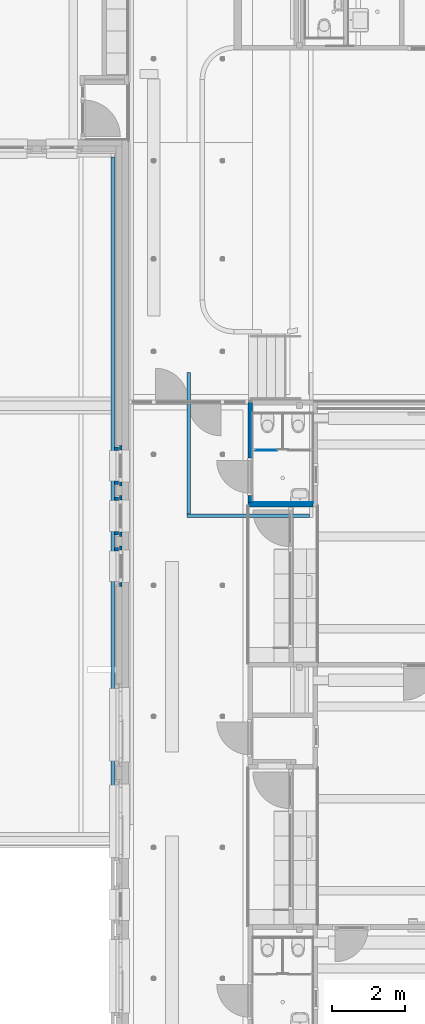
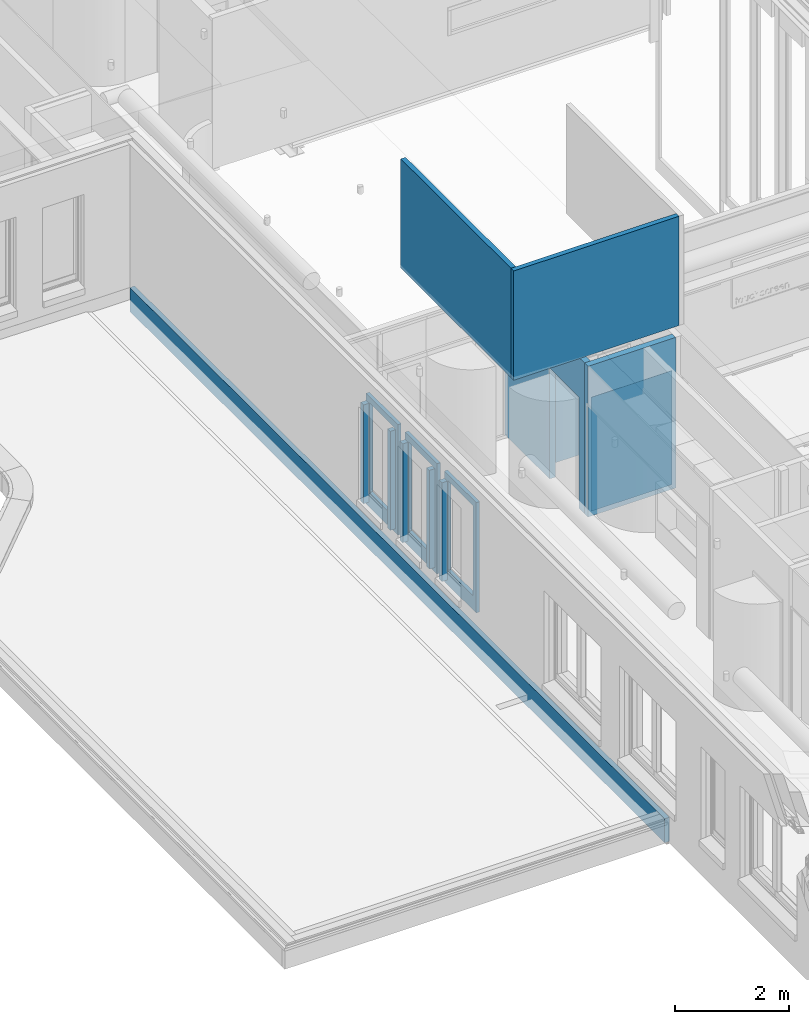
# One storey, part 41 of 128: 15 walls, 4 openings.
"""IFC2X3 building model written with IfcOpenShell, lengths in millimetres."""

from ifc_helpers import new_model, entity, si_unit, converted_unit, derived_unit, direction, frame, frame_2d, origin, place, context, subcontext, project, spatial, rectangle, extrude, material, layer, layer_set, layer_usage, type_object, element, save


model = new_model("IFC2X3")

# Units and contexts
model_context = context("Model", 3, precision=0.01, world=origin(), true_north=direction((6.123031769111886e-17, 1.0)))
body_context = subcontext(model_context, "Body", "Model", "MODEL_VIEW")
ifc_project = project(units=[si_unit("LENGTHUNIT", "METRE", prefix="MILLI"), si_unit("AREAUNIT", "SQUARE_METRE"), si_unit("VOLUMEUNIT", "CUBIC_METRE"), converted_unit("PLANEANGLEUNIT", "DEGREE", entity("IfcRatioMeasure", 0.017453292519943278), si_unit("PLANEANGLEUNIT", "RADIAN"), dimensions=[0, 0, 0, 0, 0, 0, 0]), si_unit("MASSUNIT", "GRAM", prefix="KILO"), derived_unit("MASSDENSITYUNIT", [(si_unit("MASSUNIT", "GRAM", prefix="KILO"), 1), (si_unit("LENGTHUNIT", "METRE"), -3)]), derived_unit("IONCONCENTRATIONUNIT", [(si_unit("MASSUNIT", "GRAM", prefix="KILO"), 1), (si_unit("LENGTHUNIT", "METRE"), -3)]), derived_unit("MOMENTOFINERTIAUNIT", [(si_unit("LENGTHUNIT", "METRE"), 4)]), si_unit("TIMEUNIT", "SECOND"), si_unit("FREQUENCYUNIT", "HERTZ"), si_unit("THERMODYNAMICTEMPERATUREUNIT", "DEGREE_CELSIUS"), derived_unit("THERMALTRANSMITTANCEUNIT", [(si_unit("MASSUNIT", "GRAM", prefix="KILO"), 1), (si_unit("THERMODYNAMICTEMPERATUREUNIT", "KELVIN"), -1), (si_unit("TIMEUNIT", "SECOND"), -3)]), derived_unit("THERMALCONDUCTANCEUNIT", [(si_unit("MASSUNIT", "GRAM", prefix="KILO"), 1), (si_unit("THERMODYNAMICTEMPERATUREUNIT", "KELVIN"), -1), (si_unit("TIMEUNIT", "SECOND"), -3), (si_unit("LENGTHUNIT", "METRE"), 1)]), derived_unit("VOLUMETRICFLOWRATEUNIT", [(si_unit("LENGTHUNIT", "METRE"), 3), (si_unit("TIMEUNIT", "SECOND"), -1)]), derived_unit("MASSFLOWRATEUNIT", [(si_unit("MASSUNIT", "GRAM", prefix="KILO"), 1), (si_unit("TIMEUNIT", "SECOND"), -1)]), derived_unit("ROTATIONALFREQUENCYUNIT", [(si_unit("TIMEUNIT", "SECOND"), -1)]), si_unit("ELECTRICCURRENTUNIT", "AMPERE"), si_unit("ELECTRICVOLTAGEUNIT", "VOLT"), si_unit("POWERUNIT", "WATT"), si_unit("FORCEUNIT", "NEWTON", prefix="KILO"), si_unit("ILLUMINANCEUNIT", "LUX"), si_unit("LUMINOUSFLUXUNIT", "LUMEN"), si_unit("LUMINOUSINTENSITYUNIT", "CANDELA"), derived_unit("USERDEFINED", [(si_unit("MASSUNIT", "GRAM", prefix="KILO"), -1), (si_unit("LENGTHUNIT", "METRE"), -2), (si_unit("TIMEUNIT", "SECOND"), 3), (si_unit("LUMINOUSFLUXUNIT", "LUMEN"), 1)]), derived_unit("USERDEFINED", [(si_unit("MASSUNIT", "GRAM", prefix="KILO"), 1), (si_unit("TIMEUNIT", "SECOND"), -3), (si_unit("LENGTHUNIT", "METRE"), 3), (si_unit("ELECTRICCURRENTUNIT", "AMPERE"), -2)]), derived_unit("SOUNDPOWERUNIT", [(si_unit("MASSUNIT", "GRAM", prefix="KILO"), 1), (si_unit("TIMEUNIT", "SECOND"), -3), (si_unit("LENGTHUNIT", "METRE"), 2)]), derived_unit("SOUNDPRESSUREUNIT", [(si_unit("MASSUNIT", "GRAM", prefix="KILO"), 1), (si_unit("LENGTHUNIT", "METRE"), -1), (si_unit("TIMEUNIT", "SECOND"), -2)]), derived_unit("LINEARVELOCITYUNIT", [(si_unit("LENGTHUNIT", "METRE"), 1), (si_unit("TIMEUNIT", "SECOND"), -1)]), si_unit("PRESSUREUNIT", "PASCAL"), derived_unit("USERDEFINED", [(si_unit("MASSUNIT", "GRAM", prefix="KILO"), 1), (si_unit("LENGTHUNIT", "METRE"), -2), (si_unit("TIMEUNIT", "SECOND"), -2)]), derived_unit("LINEARFORCEUNIT", [(si_unit("MASSUNIT", "GRAM", prefix="KILO"), 1), (si_unit("TIMEUNIT", "SECOND"), -2)]), derived_unit("PLANARFORCEUNIT", [(si_unit("MASSUNIT", "GRAM", prefix="KILO"), 1), (si_unit("LENGTHUNIT", "METRE"), -1), (si_unit("TIMEUNIT", "SECOND"), -2)]), derived_unit("SPECIFICHEATCAPACITYUNIT", [(si_unit("THERMODYNAMICTEMPERATUREUNIT", "KELVIN"), -1), (si_unit("LENGTHUNIT", "METRE"), 2), (si_unit("TIMEUNIT", "SECOND"), -2)]), derived_unit("HEATINGVALUEUNIT", [(si_unit("LENGTHUNIT", "METRE"), 2), (si_unit("TIMEUNIT", "SECOND"), -2)]), derived_unit("VAPORPERMEABILITYUNIT", [(si_unit("LENGTHUNIT", "METRE"), -1), (si_unit("TIMEUNIT", "SECOND"), 1)]), derived_unit("DYNAMICVISCOSITYUNIT", [(si_unit("MASSUNIT", "GRAM", prefix="KILO"), 1), (si_unit("TIMEUNIT", "SECOND"), -1), (si_unit("LENGTHUNIT", "METRE"), -1)]), derived_unit("THERMALEXPANSIONCOEFFICIENTUNIT", [(si_unit("THERMODYNAMICTEMPERATUREUNIT", "KELVIN"), -1)]), derived_unit("MODULUSOFELASTICITYUNIT", [(si_unit("MASSUNIT", "GRAM", prefix="KILO"), 1), (si_unit("LENGTHUNIT", "METRE"), -1), (si_unit("TIMEUNIT", "SECOND"), -2)]), derived_unit("ISOTHERMALMOISTURECAPACITYUNIT", [(si_unit("LENGTHUNIT", "METRE"), 3), (si_unit("MASSUNIT", "GRAM", prefix="KILO"), -1)]), derived_unit("MOISTUREDIFFUSIVITYUNIT", [(si_unit("TIMEUNIT", "SECOND"), -1), (si_unit("LENGTHUNIT", "METRE"), 2)])], contexts=[model_context])

# Site, building, storey
site_placement = place(None, frame((0.0, 300.0, 0.0)))
site = spatial("IfcSite", under=ifc_project, at=site_placement, Name="<Kadastrale nummers>", CompositionType="ELEMENT")
building_placement = place(site_placement, origin())
building = spatial("IfcBuilding", under=site, at=building_placement, CompositionType="ELEMENT")
storey_placement = place(building_placement, frame((0.0, 0.0, 3560.0000331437)))
storey = spatial("IfcBuildingStorey", under=building, at=storey_placement, Name="01 eerste verdieping", CompositionType="ELEMENT", Elevation=3560.0000331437)

# Walls
ifc_material_1 = material(Name="ISR_Metselwerk")
ifc_layer_1 = layer(ifc_material_1, 100.0)
ifc_layer_set_1 = layer_set([ifc_layer_1], Name="Basic Wall:21_DAT_metselwerk_100")
ifc_layer_usage_1 = layer_usage(ifc_layer_set_1, "AXIS2", "NEGATIVE", 50.0)
wall_type_1 = type_object("IfcWallType", Name="Basic Wall:21_DAT_metselwerk_100", PredefinedType="STANDARD", material=ifc_layer_set_1)
wall_1_placement = place(storey_placement, frame((41675.0, 27875.0, 3790.0), z_axis=(0.0, 0.0, 1.0), x_axis=(-1.0, 0.0, 0.0)))
element("IfcWallStandardCase", 1, at=wall_1_placement, inside=storey, type_object=wall_type_1, material=ifc_layer_usage_1, Name="Basic Wall:21_DAT_metselwerk_100", ObjectType="Basic Wall:21_DAT_metselwerk_100", context=body_context, shape_type="SweptSolid", body=[
    extrude(rectangle(XDim=3360.000000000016, YDim=100.00000000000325, at=frame_2d((1680.000000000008, 8.171241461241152e-14), x_axis=(-1.0, 0.0))), origin(), (0.0, 0.0, 1.0), 2349.999964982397),
])
ifc_layer_usage_2 = layer_usage(ifc_layer_set_1, "AXIS2", "POSITIVE", -50.0)
wall_2_placement = place(storey_placement, frame((38365.0, 27925.0, 3790.0), z_axis=(0.0, 0.0, 1.0), x_axis=(0.0, 1.0, 0.0)))
element("IfcWallStandardCase", 2, at=wall_2_placement, inside=storey, type_object=wall_type_1, material=ifc_layer_usage_2, Name="Basic Wall:21_DAT_metselwerk_100", ObjectType="Basic Wall:21_DAT_metselwerk_100", context=body_context, shape_type="SweptSolid", body=[
    extrude(rectangle(XDim=3880.0000000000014, YDim=100.00000000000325, at=frame_2d((1940.0000000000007, -1.1581846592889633e-12), x_axis=(-1.0, 0.0))), origin(), (0.0, 0.0, 1.0), 2349.999964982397),
])
wall_3_placement = place(storey_placement, frame((36325.0, 26955.0, 715.0000018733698)))
element("IfcWallStandardCase", 3, at=wall_3_placement, inside=storey, type_object=wall_type_1, material=ifc_layer_usage_2, Name="Basic Wall:21_DAT_metselwerk_100", ObjectType="Basic Wall:21_DAT_metselwerk_100", context=body_context, shape_type="SweptSolid", body=[
    extrude(rectangle(XDim=110.00000000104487, YDim=100.00000000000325, at=frame_2d((55.000000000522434, -1.4139800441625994e-12), x_axis=(-1.0, 0.0))), origin(), (0.0, 0.0, 1.0), 2125.0000000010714),
])
wall_4_placement = place(storey_placement, frame((36325.0, 27395.0, 715.0000018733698)))
element("IfcWallStandardCase", 4, at=wall_4_placement, inside=storey, type_object=wall_type_1, material=ifc_layer_usage_1, Name="Basic Wall:21_DAT_metselwerk_100", ObjectType="Basic Wall:21_DAT_metselwerk_100", context=body_context, shape_type="SweptSolid", body=[
    extrude(rectangle(XDim=110.00000000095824, YDim=100.00000000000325, at=frame_2d((55.00000000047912, -1.4139800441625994e-12), x_axis=(-1.0, 0.0))), origin(), (0.0, 0.0, 1.0), 2125.0000000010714),
])
wall_5_placement = place(storey_placement, frame((36325.0, 28335.0, 715.0000018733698)))
element("IfcWallStandardCase", 5, at=wall_5_placement, inside=storey, type_object=wall_type_1, material=ifc_layer_usage_2, Name="Basic Wall:21_DAT_metselwerk_100", ObjectType="Basic Wall:21_DAT_metselwerk_100", context=body_context, shape_type="SweptSolid", body=[
    extrude(rectangle(XDim=110.00000000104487, YDim=100.00000000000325, at=frame_2d((55.000000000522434, -1.4139800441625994e-12), x_axis=(-1.0, 0.0))), origin(), (0.0, 0.0, 1.0), 2125.0000000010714),
])
wall_6_placement = place(storey_placement, frame((36325.0, 28775.0, 715.0000018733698)))
element("IfcWallStandardCase", 6, at=wall_6_placement, inside=storey, type_object=wall_type_1, material=ifc_layer_usage_1, Name="Basic Wall:21_DAT_metselwerk_100", ObjectType="Basic Wall:21_DAT_metselwerk_100", context=body_context, shape_type="SweptSolid", body=[
    extrude(rectangle(XDim=110.0000000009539, YDim=100.00000000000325, at=frame_2d((55.00000000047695, -1.4139800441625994e-12), x_axis=(-1.0, 0.0))), origin(), (0.0, 0.0, 1.0), 2125.0000000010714),
])
wall_7_placement = place(storey_placement, frame((36325.0, 29715.0, 715.0000018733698)))
element("IfcWallStandardCase", 7, at=wall_7_placement, inside=storey, type_object=wall_type_1, material=ifc_layer_usage_2, Name="Basic Wall:21_DAT_metselwerk_100", ObjectType="Basic Wall:21_DAT_metselwerk_100", context=body_context, shape_type="SweptSolid", body=[
    extrude(rectangle(XDim=110.00000000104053, YDim=100.00000000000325, at=frame_2d((55.00000000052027, -1.4139800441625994e-12), x_axis=(-1.0, 0.0))), origin(), (0.0, 0.0, 1.0), 2125.0000000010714),
])

# Wall, opening
ifc_material_2 = material(Name="ISR_Gips")
ifc_layer_2 = layer(ifc_material_2, 1.0)
ifc_material_3 = material(Name="ISR_Binnenwand")
ifc_layer_3 = layer(ifc_material_3, 123.0)
ifc_layer_4 = layer(ifc_material_2, 1.0)
ifc_layer_set_2 = layer_set([ifc_layer_2, ifc_layer_3, ifc_layer_4], Name="Basic Wall:22_DAT_binnenwand_125")
ifc_layer_usage_3 = layer_usage(ifc_layer_set_2, "AXIS2", "NEGATIVE", 62.50000000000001)
wall_type_2 = type_object("IfcWallType", Name="Basic Wall:22_DAT_binnenwand_125", PredefinedType="STANDARD", material=ifc_layer_set_2)
wall_8_placement = place(storey_placement, frame((40052.49999999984, 31035.0, 90.00000187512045), z_axis=(0.0, 0.0, 1.0), x_axis=(0.0, -1.0, 0.0)))
wall_8 = element("IfcWallStandardCase", 8, at=wall_8_placement, inside=storey, type_object=wall_type_2, material=ifc_layer_usage_3, Name="Basic Wall:22_DAT_binnenwand_125", ObjectType="Basic Wall:22_DAT_binnenwand_125", context=body_context, shape_type="SweptSolid", body=[
    extrude(rectangle(XDim=2800.001376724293, YDim=125.00000000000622, at=frame_2d((1400.0006883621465, 2.6503244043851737e-12), x_axis=(-1.0, 0.0))), origin(), (0.0, 0.0, 1.0), 3240.0000290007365),
])
opening_1_placement = place(wall_8_placement, origin())
element("IfcOpeningElement", 9, at=opening_1_placement, cuts=wall_8, Name="Basic Wall:22_DAT_binnenwand_125", ObjectType="Opening", context=body_context, shape_type="SweptSolid", body=[
    extrude(rectangle(XDim=2390.0000000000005, YDim=1034.0000000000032, at=frame_2d((-2.1600499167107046e-12, 0.0), x_axis=(0.0, 1.0))), frame((2089.002753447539, -214.89999999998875, 1195.0), z_axis=(0.0, 1.0, 0.0), x_axis=(-1.0, 0.0, 0.0)), (0.0, 0.0, 1.0), 429.79999999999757),
])

# Walls
ifc_layer_5 = layer(ifc_material_3, 113.0)
ifc_material_4 = material(Name="ISR_HPL Kleur hout")
ifc_layer_6 = layer(ifc_material_4, 12.0)
ifc_layer_set_3 = layer_set([ifc_layer_5, ifc_layer_6], Name="Basic Wall:22_DAT_binnenwand_125 HPL")
ifc_layer_usage_4 = layer_usage(ifc_layer_set_3, "AXIS2", "POSITIVE", -62.49999999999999)
wall_type_3 = type_object("IfcWallType", Name="Basic Wall:22_DAT_binnenwand_125 HPL", PredefinedType="STANDARD", material=ifc_layer_set_3)
wall_9_placement = place(storey_placement, frame((41775.0, 28172.498623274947, 90.00000187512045), z_axis=(0.0, 0.0, 1.0), x_axis=(-1.0, 0.0, 0.0)))
element("IfcWallStandardCase", 10, at=wall_9_placement, inside=storey, type_object=wall_type_3, material=ifc_layer_usage_4, Name="Basic Wall:22_DAT_binnenwand_125 HPL", ObjectType="Basic Wall:22_DAT_binnenwand_125 HPL", context=body_context, shape_type="SweptSolid", body=[
    extrude(rectangle(XDim=1784.9999999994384, YDim=124.99999999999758, at=frame_2d((892.4999999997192, 6.323830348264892e-13), x_axis=(-1.0, 0.0))), origin(), (0.0, 0.0, 1.0), 3240.0000290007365),
])
ifc_material_5 = material(Name="ISR_Kunststof_grijs")
ifc_layer_7 = layer(ifc_material_5, 25.0)
ifc_layer_set_4 = layer_set([ifc_layer_7], Name="Basic Wall:43_DAT_sanitairewand")
ifc_layer_usage_5 = layer_usage(ifc_layer_set_4, "AXIS2", "NEGATIVE", 12.500000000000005)
wall_type_4 = type_object("IfcWallType", Name="Basic Wall:43_DAT_sanitairewand", PredefinedType="STANDARD", material=ifc_layer_set_4)
wall_10_placement = place(storey_placement, frame((40195.0, 29667.49862327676, 240.00000187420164)))
element("IfcWallStandardCase", 11, at=wall_10_placement, inside=storey, type_object=wall_type_4, material=ifc_layer_usage_5, Name="Basic Wall:43_DAT_sanitairewand", ObjectType="Basic Wall:43_DAT_sanitairewand", context=body_context, shape_type="SweptSolid", body=[
    extrude(rectangle(XDim=600.0000000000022, YDim=25.000000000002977, at=frame_2d((300.0000000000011, 4.121147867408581e-13), x_axis=(-1.0, 0.0))), origin(), (0.0, 0.0, 1.0), 2000.0000000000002),
])
ifc_material_6 = material(Name="DAT_Gasbeton")
ifc_layer_8 = layer(ifc_material_6, 100.0)
ifc_layer_set_5 = layer_set([ifc_layer_8], Name="Basic Wall:21_DAT_gasbeton_100")
ifc_layer_usage_6 = layer_usage(ifc_layer_set_5, "AXIS2", "NEGATIVE", 50.0)
wall_type_5 = type_object("IfcWallType", Name="Basic Wall:21_DAT_gasbeton_100", PredefinedType="STANDARD", material=ifc_layer_set_5)
wall_11_placement = place(storey_placement, frame((36275.0, 37725.0, 0.0), z_axis=(0.0, 0.0, 1.0), x_axis=(0.0, -1.0, 0.0)))
element("IfcWallStandardCase", 12, at=wall_11_placement, inside=storey, type_object=wall_type_5, material=ifc_layer_usage_6, Name="Basic Wall:21_DAT_gasbeton_100", ObjectType="Basic Wall:21_DAT_gasbeton_100", context=body_context, shape_type="SweptSolid", body=[
    extrude(rectangle(XDim=18840.000000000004, YDim=100.00000000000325, at=frame_2d((9420.000000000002, 0.0), x_axis=(-1.0, 0.0))), origin(), (0.0, 0.0, 1.0), 514.9999668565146),
])

# Wall, opening
ifc_material_7 = material(Name="ISR_Isolatie")
ifc_layer_9 = layer(ifc_material_7, 70.0)
ifc_layer_set_6 = layer_set([ifc_layer_9], Name="Basic Wall:21_DAT_isolatie hard_74")
ifc_layer_usage_7 = layer_usage(ifc_layer_set_6, "AXIS2", "POSITIVE", -35.0)
wall_type_6 = type_object("IfcWallType", Name="Basic Wall:21_DAT_isolatie hard_74", PredefinedType="STANDARD", material=ifc_layer_set_6)
wall_12_placement = place(storey_placement, frame((36490.0, 27045.0, 589.9999668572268), z_axis=(0.0, 0.0, 1.0), x_axis=(0.0, -1.0, 0.0)))
wall_12 = element("IfcWallStandardCase", 13, at=wall_12_placement, inside=storey, type_object=wall_type_6, material=ifc_layer_usage_7, Name="Basic Wall:21_DAT_isolatie hard_74", ObjectType="Basic Wall:21_DAT_isolatie hard_74", context=body_context, shape_type="SweptSolid", body=[
    extrude(rectangle(XDim=1119.9999999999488, YDim=70.00000000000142, at=frame_2d((559.9999999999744, -1.2789769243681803e-13), x_axis=(-1.0, 0.0))), origin(), (0.0, 0.0, 1.0), 2375.000035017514),
])
opening_2_placement = place(wall_12_placement, origin())
element("IfcOpeningElement", 14, at=opening_2_placement, cuts=wall_12, Name="Basic Wall:21_DAT_isolatie hard_74", ObjectType="Opening", context=body_context, shape_type="SweptSolid", body=[
    extrude(rectangle(XDim=1929.9999999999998, YDim=879.9999999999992, at=frame_2d((5.684341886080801e-13, 0.0), x_axis=(1.0, 0.0))), frame((560.0, -187.40000000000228, 1275.0000350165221), z_axis=(0.0, 1.0, 0.0), x_axis=(0.0, 0.0, 1.0)), (0.0, 0.0, 1.0), 374.80000000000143),
])

wall_13_placement = place(storey_placement, frame((36490.0, 28425.0, 589.9999668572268), z_axis=(0.0, 0.0, 1.0), x_axis=(0.0, -1.0, 0.0)))
wall_13 = element("IfcWallStandardCase", 15, at=wall_13_placement, inside=storey, type_object=wall_type_6, material=ifc_layer_usage_7, Name="Basic Wall:21_DAT_isolatie hard_74", ObjectType="Basic Wall:21_DAT_isolatie hard_74", context=body_context, shape_type="SweptSolid", body=[
    extrude(rectangle(XDim=1119.9999999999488, YDim=70.00000000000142, at=frame_2d((559.9999999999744, -1.2789769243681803e-13), x_axis=(-1.0, 0.0))), origin(), (0.0, 0.0, 1.0), 2375.000035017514),
])
opening_3_placement = place(wall_13_placement, origin())
element("IfcOpeningElement", 16, at=opening_3_placement, cuts=wall_13, Name="Basic Wall:21_DAT_isolatie hard_74", ObjectType="Opening", context=body_context, shape_type="SweptSolid", body=[
    extrude(rectangle(XDim=1929.9999999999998, YDim=879.9999999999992, at=frame_2d((5.684341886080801e-13, -4.320099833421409e-12), x_axis=(1.0, 0.0))), frame((560.0, -187.40000000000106, 1275.0000350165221), z_axis=(0.0, 1.0, 0.0), x_axis=(0.0, 0.0, 1.0)), (0.0, 0.0, 1.0), 374.80000000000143),
])

wall_14_placement = place(storey_placement, frame((36490.0, 29805.0, 589.9999668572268), z_axis=(0.0, 0.0, 1.0), x_axis=(0.0, -1.0, 0.0)))
wall_14 = element("IfcWallStandardCase", 17, at=wall_14_placement, inside=storey, type_object=wall_type_6, material=ifc_layer_usage_7, Name="Basic Wall:21_DAT_isolatie hard_74", ObjectType="Basic Wall:21_DAT_isolatie hard_74", context=body_context, shape_type="SweptSolid", body=[
    extrude(rectangle(XDim=1119.9999999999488, YDim=70.00000000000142, at=frame_2d((559.9999999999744, -1.2789769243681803e-13), x_axis=(-1.0, 0.0))), origin(), (0.0, 0.0, 1.0), 2375.000035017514),
])
opening_4_placement = place(wall_14_placement, origin())
element("IfcOpeningElement", 18, at=opening_4_placement, cuts=wall_14, Name="Basic Wall:21_DAT_isolatie hard_74", ObjectType="Opening", context=body_context, shape_type="SweptSolid", body=[
    extrude(rectangle(XDim=1929.9999999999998, YDim=879.9999999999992, at=frame_2d((5.684341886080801e-13, 0.0), x_axis=(1.0, 0.0))), frame((560.0, -187.3999999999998, 1275.0000350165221), z_axis=(0.0, 1.0, 0.0), x_axis=(0.0, 0.0, 1.0)), (0.0, 0.0, 1.0), 374.80000000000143),
])

# Wall
ifc_material_8 = material(Name="ISR_Tegels_grijs_150x150")
ifc_layer_10 = layer(ifc_material_8, 10.0)
ifc_layer_set_7 = layer_set([ifc_layer_10], Name="Basic Wall:43_DAT_Wandtegelwerk")
ifc_layer_usage_8 = layer_usage(ifc_layer_set_7, "AXIS2", "NEGATIVE", 5.0)
wall_type_7 = type_object("IfcWallType", Name="Basic Wall:43_DAT_Wandtegelwerk", PredefinedType="STANDARD", material=ifc_layer_set_7)
wall_15_placement = place(storey_placement, frame((40125.0, 28239.998623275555, 90.00000187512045)))
element("IfcWallStandardCase", 19, at=wall_15_placement, inside=storey, type_object=wall_type_7, material=ifc_layer_usage_8, Name="Basic Wall:43_DAT_Wandtegelwerk", ObjectType="Basic Wall:43_DAT_Wandtegelwerk", context=body_context, shape_type="SweptSolid", body=[
    extrude(rectangle(XDim=1649.9999999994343, YDim=9.999999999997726, at=frame_2d((824.9999999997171, 0.0), x_axis=(-1.0, 0.0))), origin(), (0.0, 0.0, 1.0), 2450.0000226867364),
])

save(model, "model.ifc")
